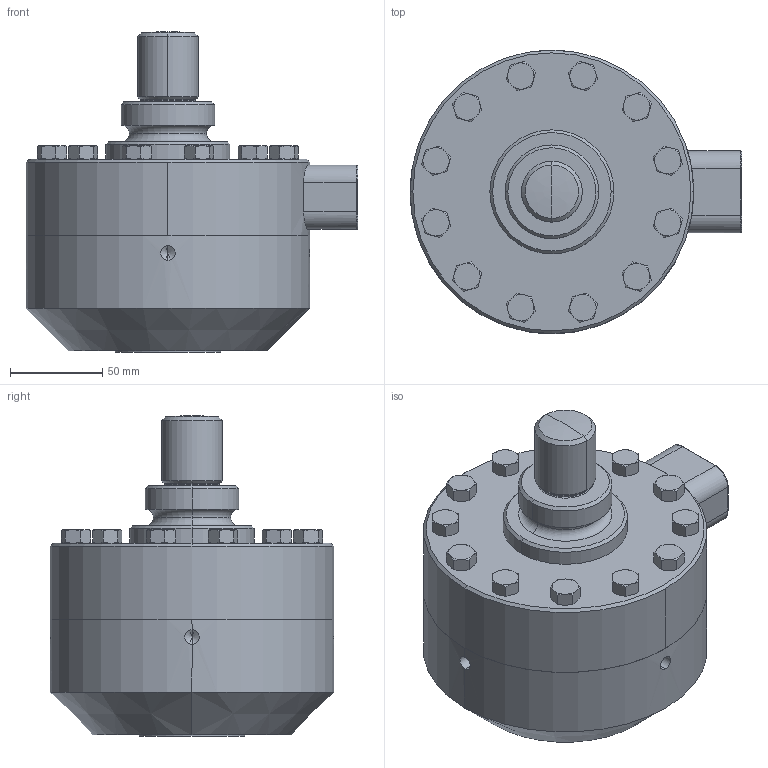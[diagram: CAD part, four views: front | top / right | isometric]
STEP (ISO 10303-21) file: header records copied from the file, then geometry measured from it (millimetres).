
FILE_DESCRIPTION (( 'STEP AP203' ), '1' );
FILE_NAME ('Interface 1820-100KN.STEP', '2012-05-15T20:44:21', ( ' ' ), ( '' ), 'SwSTEP 2.0', 'SolidWorks 2002349', '' );
FILE_SCHEMA (( 'CONFIG_CONTROL_DESIGN' ));
Length unit declared in the file: inch
Products named in the file (1): Interface 1820-100KN
Bounding box: 180.11 x 153.95 x 173.99 mm (x, y, z)
Volume: 1933141.6 mm3; surface area: 106279.1 mm2
Topology: 1 solids, 1 shells, 498 faces, 1184 edges, 711 vertices
Faces by surface type: plane 192, cone 192, cylinder 84, bspline 26, torus 4
Entity records: 16035 total; most frequent: CARTESIAN_POINT 5264, ORIENTED_EDGE 2340, DIRECTION 2064, EDGE_CURVE 1170, AXIS2_PLACEMENT_3D 835, VERTEX_POINT 711, EDGE_LOOP 535, FACE_OUTER_BOUND 498
